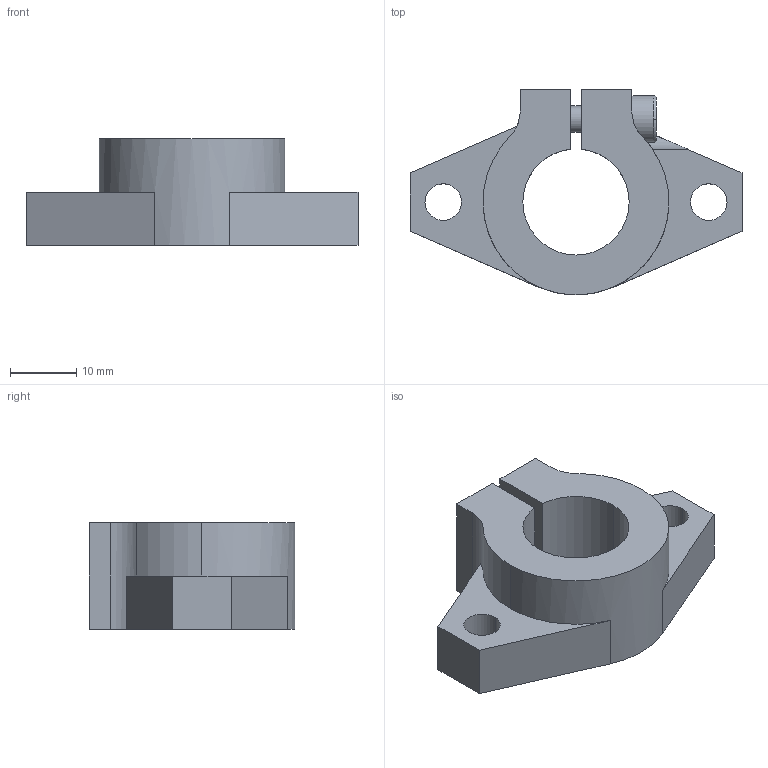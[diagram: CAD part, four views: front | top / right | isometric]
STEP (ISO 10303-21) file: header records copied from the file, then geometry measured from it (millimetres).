
FILE_DESCRIPTION(('FreeCAD Model'),'2;1');
FILE_NAME('Open CASCADE Shape Model','2021-05-04T12:52:43',('Author'),( ''),'Open CASCADE STEP processor 7.5','FreeCAD','Unknown');
FILE_SCHEMA(('AUTOMOTIVE_DESIGN { 1 0 10303 214 1 1 1 1 }'));
Length unit declared in the file: millimetre
Products named in the file (1): support_shf16
Bounding box: 50 x 31 x 16 mm (x, y, z)
Volume: 10018.5 mm3; surface area: 4851.5 mm2
Topology: 1 solids, 1 shells, 48 faces, 133 edges, 89 vertices
Faces by surface type: plane 28, cylinder 18, torus 2
Entity records: 3622 total; most frequent: CARTESIAN_POINT 934, DIRECTION 510, LINE 303, VECTOR 303, ORIENTED_EDGE 266, PCURVE 266, DEFINITIONAL_REPRESENTATION 266, EDGE_CURVE 133
